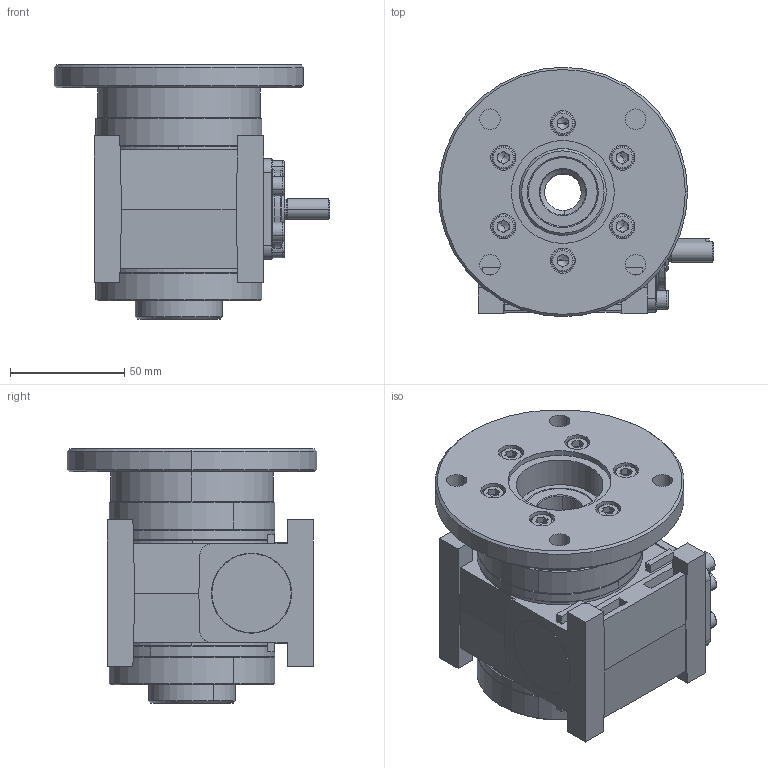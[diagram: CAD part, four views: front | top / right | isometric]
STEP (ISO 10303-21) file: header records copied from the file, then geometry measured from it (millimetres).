
FILE_DESCRIPTION (( 'STEP AP203' ), '1' );
FILE_NAME ('MRP-26_WBS-SP-KM_2.STEP', '2023-09-05T06:10:13', ( '' ), ( '' ), 'SwSTEP 2.0', 'SolidWorks 2022', '' );
FILE_SCHEMA (( 'CONFIG_CONTROL_DESIGN' ));
Length unit declared in the file: millimetre
Products named in the file (1): MRP-26_WBS-SP-KM_2
Bounding box: 120.5 x 109 x 111 mm (x, y, z)
Volume: 555623.6 mm3; surface area: 98788.9 mm2
Topology: 1 solids, 36 shells, 1123 faces, 2523 edges, 1535 vertices
Faces by surface type: plane 449, cylinder 321, cone 255, torus 92, bspline 6
Entity records: 31762 total; most frequent: CARTESIAN_POINT 5985, DIRECTION 5854, ORIENTED_EDGE 4974, EDGE_CURVE 2487, AXIS2_PLACEMENT_3D 2305, VERTEX_POINT 1535, EDGE_LOOP 1258, LINE 1244
